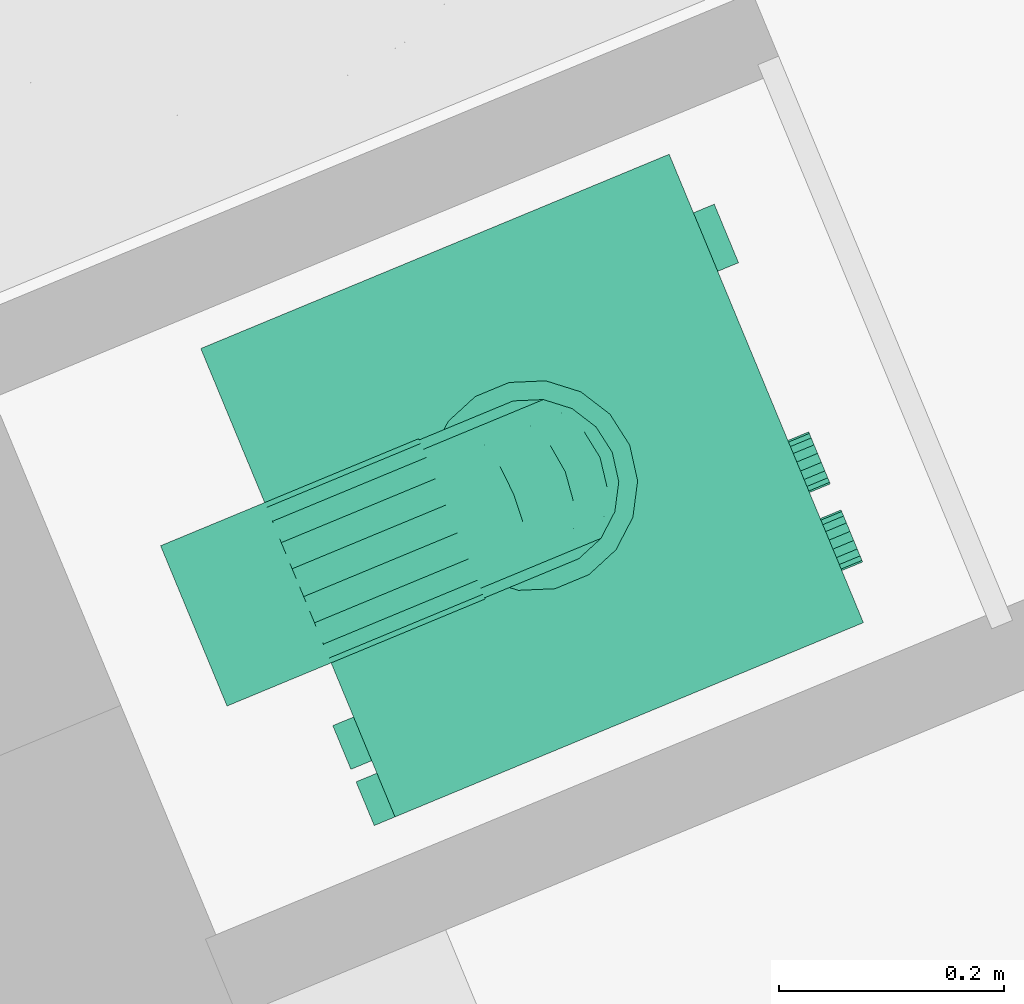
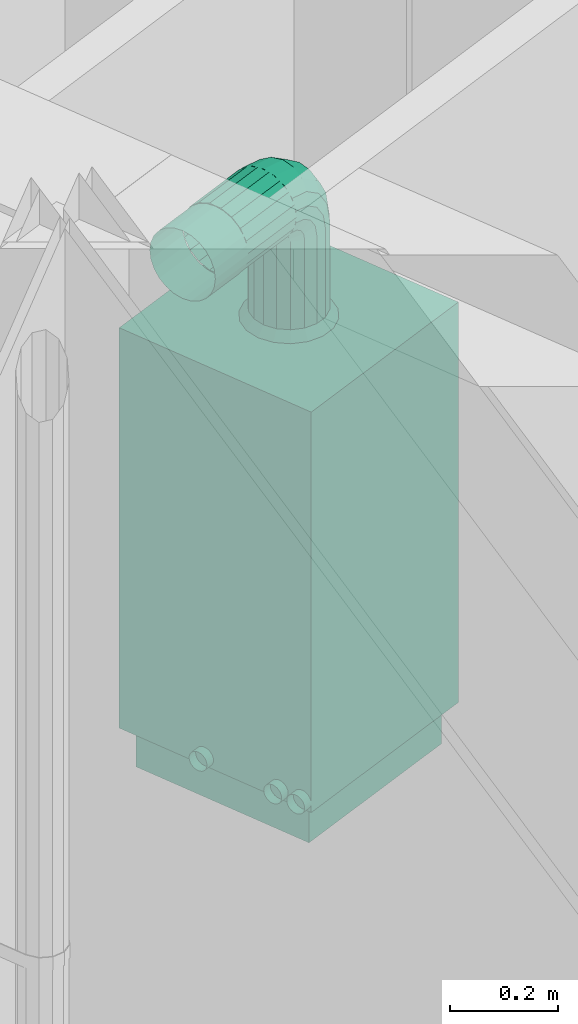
# One storey, part 84 of 119: 1 energy conversion device.
"""IFC2X3 building model written with IfcOpenShell, lengths in metres."""

from ifc_helpers import new_model, entity, si_unit, converted_unit, derived_unit, money_unit, direction, frame, origin_with_axes, place, context, subcontext, project, spatial, open_shell, faceted_brep, surface_model, source, transform, mapped, type_object, element, save


model = new_model("IFC2X3")

# Units and contexts
model_context = context("Model", 3, precision=1e-05, world=origin_with_axes(), true_north=direction((0.0, 1.0)))
body_context = subcontext(model_context, "Body", "Model", "MODEL_VIEW")
ifc_project = project(units=[si_unit("LENGTHUNIT", "METRE"), si_unit("AREAUNIT", "SQUARE_METRE"), si_unit("VOLUMEUNIT", "CUBIC_METRE"), converted_unit("PLANEANGLEUNIT", "DEGREE", entity("IfcPlaneAngleMeasure", 0.0174532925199), si_unit("PLANEANGLEUNIT", "RADIAN"), dimensions=[0, 0, 0, 0, 0, 0, 0]), si_unit("SOLIDANGLEUNIT", "STERADIAN"), money_unit("EUR"), converted_unit("TIMEUNIT", "Year", entity("IfcTimeMeasure", 31556926.0), si_unit("TIMEUNIT", "SECOND"), dimensions=[0, 0, 1, 0, 0, 0, 0]), si_unit("MASSUNIT", "GRAM", prefix="KILO"), si_unit("THERMODYNAMICTEMPERATUREUNIT", "DEGREE_CELSIUS"), si_unit("LUMINOUSINTENSITYUNIT", "LUMEN"), si_unit("ENERGYUNIT", "JOULE", prefix="MEGA"), derived_unit("THERMALCONDUCTANCEUNIT", [(si_unit("POWERUNIT", "WATT"), 1), (si_unit("LENGTHUNIT", "METRE"), -1), (si_unit("THERMODYNAMICTEMPERATUREUNIT", "KELVIN"), -1)]), derived_unit("SPECIFICHEATCAPACITYUNIT", [(si_unit("ENERGYUNIT", "JOULE"), 1), (si_unit("MASSUNIT", "GRAM", prefix="KILO"), -1), (si_unit("THERMODYNAMICTEMPERATUREUNIT", "KELVIN"), -1)]), derived_unit("MASSDENSITYUNIT", [(si_unit("MASSUNIT", "GRAM", prefix="KILO"), 1), (si_unit("VOLUMEUNIT", "CUBIC_METRE"), -1)])], contexts=[model_context])

# Site, building, storey
site_placement = place(None, origin_with_axes())
site = spatial("IfcSite", under=ifc_project, at=site_placement, Name="Site", CompositionType="ELEMENT")
building_placement = place(site_placement, origin_with_axes())
building = spatial("IfcBuilding", under=site, at=building_placement, Name="Bâtiment", CompositionType="ELEMENT")
storey_placement = place(building_placement, origin_with_axes())
storey = spatial("IfcBuildingStorey", under=building, at=storey_placement, Name="Rez-de-chaussée", CompositionType="ELEMENT", Elevation=0.0)

# Energy conversion device
boiler_type = type_object("IfcBoilerType", Name="Chaudière à gaz 23", PredefinedType="WATER")
shared_shape = source(origin_with_axes(), body_context, "Body", "SurfaceModel", [
    surface_model("IfcShellBasedSurfaceModel", [(-0.2, 0.45, 0.090909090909), (-0.2, 0.47, 0.090909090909), (-0.194564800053, 0.47, 0.0916246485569), (-0.194564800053, 0.45, 0.0916246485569), (-0.205435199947, 0.45, 0.0916246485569), (-0.205435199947, 0.47, 0.0916246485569), (-0.1895, 0.47, 0.0937225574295), (-0.1895, 0.45, 0.0937225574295), (-0.2105, 0.45, 0.0937225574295), (-0.2105, 0.47, 0.0937225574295), (-0.185150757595, 0.47, 0.0970598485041), (-0.185150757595, 0.45, 0.0970598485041), (-0.214849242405, 0.45, 0.0970598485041), (-0.214849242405, 0.47, 0.0970598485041), (-0.181813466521, 0.47, 0.101409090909), (-0.181813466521, 0.45, 0.101409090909), (-0.218186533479, 0.45, 0.101409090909), (-0.218186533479, 0.47, 0.101409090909), (-0.179715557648, 0.47, 0.106473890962), (-0.179715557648, 0.45, 0.106473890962), (-0.220284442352, 0.45, 0.106473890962), (-0.220284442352, 0.47, 0.106473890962), (-0.179, 0.47, 0.111909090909), (-0.179, 0.45, 0.111909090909), (-0.221, 0.45, 0.111909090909), (-0.221, 0.47, 0.111909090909), (-0.179715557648, 0.47, 0.117344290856), (-0.179715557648, 0.45, 0.117344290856), (-0.220284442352, 0.45, 0.117344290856), (-0.220284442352, 0.47, 0.117344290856), (-0.181813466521, 0.47, 0.122409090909), (-0.181813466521, 0.45, 0.122409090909), (-0.218186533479, 0.45, 0.122409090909), (-0.218186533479, 0.47, 0.122409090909), (-0.185150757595, 0.47, 0.126758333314), (-0.185150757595, 0.45, 0.126758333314), (-0.214849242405, 0.45, 0.126758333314), (-0.214849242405, 0.47, 0.126758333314), (-0.1895, 0.47, 0.130095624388), (-0.1895, 0.45, 0.130095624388), (-0.2105, 0.45, 0.130095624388), (-0.2105, 0.47, 0.130095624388), (-0.194564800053, 0.47, 0.132193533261), (-0.194564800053, 0.45, 0.132193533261), (-0.205435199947, 0.45, 0.132193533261), (-0.205435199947, 0.47, 0.132193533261), (-0.2, 0.47, 0.132909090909), (-0.2, 0.45, 0.132909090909)], [open_shell([[[0, 1, 2, 3]], [[4, 5, 1, 0]], [[3, 2, 6, 7]], [[8, 9, 5, 4]], [[7, 6, 10, 11]], [[12, 13, 9, 8]], [[11, 10, 14, 15]], [[16, 17, 13, 12]], [[15, 14, 18, 19]], [[20, 21, 17, 16]], [[19, 18, 22, 23]], [[24, 25, 21, 20]], [[23, 22, 26, 27]], [[28, 29, 25, 24]], [[27, 26, 30, 31]], [[32, 33, 29, 28]], [[31, 30, 34, 35]], [[36, 37, 33, 32]], [[35, 34, 38, 39]], [[40, 41, 37, 36]], [[39, 38, 42, 43]], [[44, 45, 41, 40]], [[43, 42, 46, 47]], [[47, 46, 45, 44]]])]),
    surface_model("IfcShellBasedSurfaceModel", [(-0.375, 0.45, 0.090909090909), (-0.375, 0.47, 0.090909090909), (-0.369564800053, 0.47, 0.0916246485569), (-0.369564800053, 0.45, 0.0916246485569), (-0.380435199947, 0.45, 0.0916246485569), (-0.380435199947, 0.47, 0.0916246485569), (-0.3645, 0.47, 0.0937225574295), (-0.3645, 0.45, 0.0937225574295), (-0.3855, 0.45, 0.0937225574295), (-0.3855, 0.47, 0.0937225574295), (-0.360150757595, 0.47, 0.0970598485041), (-0.360150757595, 0.45, 0.0970598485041), (-0.389849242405, 0.45, 0.0970598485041), (-0.389849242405, 0.47, 0.0970598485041), (-0.356813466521, 0.47, 0.101409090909), (-0.356813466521, 0.45, 0.101409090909), (-0.393186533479, 0.45, 0.101409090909), (-0.393186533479, 0.47, 0.101409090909), (-0.354715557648, 0.47, 0.106473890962), (-0.354715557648, 0.45, 0.106473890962), (-0.395284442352, 0.45, 0.106473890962), (-0.395284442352, 0.47, 0.106473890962), (-0.354, 0.47, 0.111909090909), (-0.354, 0.45, 0.111909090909), (-0.396, 0.45, 0.111909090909), (-0.396, 0.47, 0.111909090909), (-0.354715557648, 0.47, 0.117344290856), (-0.354715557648, 0.45, 0.117344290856), (-0.395284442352, 0.45, 0.117344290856), (-0.395284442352, 0.47, 0.117344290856), (-0.356813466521, 0.47, 0.122409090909), (-0.356813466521, 0.45, 0.122409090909), (-0.393186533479, 0.45, 0.122409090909), (-0.393186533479, 0.47, 0.122409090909), (-0.360150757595, 0.47, 0.126758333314), (-0.360150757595, 0.45, 0.126758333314), (-0.389849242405, 0.45, 0.126758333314), (-0.389849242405, 0.47, 0.126758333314), (-0.3645, 0.47, 0.130095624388), (-0.3645, 0.45, 0.130095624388), (-0.3855, 0.45, 0.130095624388), (-0.3855, 0.47, 0.130095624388), (-0.369564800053, 0.47, 0.132193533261), (-0.369564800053, 0.45, 0.132193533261), (-0.380435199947, 0.45, 0.132193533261), (-0.380435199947, 0.47, 0.132193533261), (-0.375, 0.47, 0.132909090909), (-0.375, 0.45, 0.132909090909)], [open_shell([[[0, 1, 2, 3]], [[4, 5, 1, 0]], [[3, 2, 6, 7]], [[8, 9, 5, 4]], [[7, 6, 10, 11]], [[12, 13, 9, 8]], [[11, 10, 14, 15]], [[16, 17, 13, 12]], [[15, 14, 18, 19]], [[20, 21, 17, 16]], [[19, 18, 22, 23]], [[24, 25, 21, 20]], [[23, 22, 26, 27]], [[28, 29, 25, 24]], [[27, 26, 30, 31]], [[32, 33, 29, 28]], [[31, 30, 34, 35]], [[36, 37, 33, 32]], [[35, 34, 38, 39]], [[40, 41, 37, 36]], [[39, 38, 42, 43]], [[44, 45, 41, 40]], [[43, 42, 46, 47]], [[47, 46, 45, 44]]])]),
    surface_model("IfcShellBasedSurfaceModel", [(-0.429, 0.45, 0.090909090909), (-0.429, 0.47, 0.090909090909), (-0.423564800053, 0.47, 0.0916246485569), (-0.423564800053, 0.45, 0.0916246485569), (-0.434435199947, 0.45, 0.0916246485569), (-0.434435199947, 0.47, 0.0916246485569), (-0.4185, 0.47, 0.0937225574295), (-0.4185, 0.45, 0.0937225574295), (-0.4395, 0.45, 0.0937225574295), (-0.4395, 0.47, 0.0937225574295), (-0.414150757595, 0.47, 0.0970598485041), (-0.414150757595, 0.45, 0.0970598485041), (-0.443849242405, 0.45, 0.0970598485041), (-0.443849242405, 0.47, 0.0970598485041), (-0.410813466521, 0.47, 0.101409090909), (-0.410813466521, 0.45, 0.101409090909), (-0.447186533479, 0.45, 0.101409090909), (-0.447186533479, 0.47, 0.101409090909), (-0.408715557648, 0.47, 0.106473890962), (-0.408715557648, 0.45, 0.106473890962), (-0.449284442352, 0.45, 0.106473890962), (-0.449284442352, 0.47, 0.106473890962), (-0.408, 0.47, 0.111909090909), (-0.408, 0.45, 0.111909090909), (-0.45, 0.45, 0.111909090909), (-0.45, 0.47, 0.111909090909), (-0.408715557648, 0.47, 0.117344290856), (-0.408715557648, 0.45, 0.117344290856), (-0.449284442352, 0.45, 0.117344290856), (-0.449284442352, 0.47, 0.117344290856), (-0.410813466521, 0.47, 0.122409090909), (-0.410813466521, 0.45, 0.122409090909), (-0.447186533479, 0.45, 0.122409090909), (-0.447186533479, 0.47, 0.122409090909), (-0.414150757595, 0.47, 0.126758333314), (-0.414150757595, 0.45, 0.126758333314), (-0.443849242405, 0.45, 0.126758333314), (-0.443849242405, 0.47, 0.126758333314), (-0.4185, 0.47, 0.130095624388), (-0.4185, 0.45, 0.130095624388), (-0.4395, 0.45, 0.130095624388), (-0.4395, 0.47, 0.130095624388), (-0.423564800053, 0.47, 0.132193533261), (-0.423564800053, 0.45, 0.132193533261), (-0.434435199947, 0.45, 0.132193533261), (-0.434435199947, 0.47, 0.132193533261), (-0.429, 0.47, 0.132909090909), (-0.429, 0.45, 0.132909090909)], [open_shell([[[0, 1, 2, 3]], [[4, 5, 1, 0]], [[3, 2, 6, 7]], [[8, 9, 5, 4]], [[7, 6, 10, 11]], [[12, 13, 9, 8]], [[11, 10, 14, 15]], [[16, 17, 13, 12]], [[15, 14, 18, 19]], [[20, 21, 17, 16]], [[19, 18, 22, 23]], [[24, 25, 21, 20]], [[23, 22, 26, 27]], [[28, 29, 25, 24]], [[27, 26, 30, 31]], [[32, 33, 29, 28]], [[31, 30, 34, 35]], [[36, 37, 33, 32]], [[35, 34, 38, 39]], [[40, 41, 37, 36]], [[39, 38, 42, 43]], [[44, 45, 41, 40]], [[43, 42, 46, 47]], [[47, 46, 45, 44]]])]),
    surface_model("IfcShellBasedSurfaceModel", [(-0.225, 0.45, 1.218), (-0.225, 0.55, 1.218), (-0.205070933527, 0.55, 1.22062371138), (-0.205070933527, 0.45, 1.22062371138), (-0.244929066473, 0.45, 1.22062371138), (-0.244929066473, 0.55, 1.22062371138), (-0.1865, 0.55, 1.22831604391), (-0.1865, 0.45, 1.22831604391), (-0.2635, 0.45, 1.22831604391), (-0.2635, 0.55, 1.22831604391), (-0.170552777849, 0.55, 1.24055277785), (-0.170552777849, 0.45, 1.24055277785), (-0.279447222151, 0.45, 1.24055277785), (-0.279447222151, 0.55, 1.24055277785), (-0.158316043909, 0.55, 1.2565), (-0.158316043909, 0.45, 1.2565), (-0.291683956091, 0.45, 1.2565), (-0.291683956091, 0.55, 1.2565), (-0.150623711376, 0.55, 1.27507093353), (-0.150623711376, 0.45, 1.27507093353), (-0.299376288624, 0.45, 1.27507093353), (-0.299376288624, 0.55, 1.27507093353), (-0.148, 0.55, 1.295), (-0.148, 0.45, 1.295), (-0.302, 0.45, 1.295), (-0.302, 0.55, 1.295), (-0.150623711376, 0.55, 1.31492906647), (-0.150623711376, 0.45, 1.31492906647), (-0.299376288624, 0.45, 1.31492906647), (-0.299376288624, 0.55, 1.31492906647), (-0.158316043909, 0.55, 1.3335), (-0.158316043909, 0.45, 1.3335), (-0.291683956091, 0.45, 1.3335), (-0.291683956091, 0.55, 1.3335), (-0.170552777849, 0.55, 1.34944722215), (-0.170552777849, 0.45, 1.34944722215), (-0.279447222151, 0.45, 1.34944722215), (-0.279447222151, 0.55, 1.34944722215), (-0.1865, 0.55, 1.36168395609), (-0.1865, 0.45, 1.36168395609), (-0.2635, 0.45, 1.36168395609), (-0.2635, 0.55, 1.36168395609), (-0.205070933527, 0.55, 1.36937628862), (-0.205070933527, 0.45, 1.36937628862), (-0.244929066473, 0.45, 1.36937628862), (-0.244929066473, 0.55, 1.36937628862), (-0.225, 0.55, 1.372), (-0.225, 0.45, 1.372)], [open_shell([[[0, 1, 2, 3]], [[4, 5, 1, 0]], [[3, 2, 6, 7]], [[8, 9, 5, 4]], [[7, 6, 10, 11]], [[12, 13, 9, 8]], [[11, 10, 14, 15]], [[16, 17, 13, 12]], [[15, 14, 18, 19]], [[20, 21, 17, 16]], [[19, 18, 22, 23]], [[24, 25, 21, 20]], [[23, 22, 26, 27]], [[28, 29, 25, 24]], [[27, 26, 30, 31]], [[32, 33, 29, 28]], [[31, 30, 34, 35]], [[36, 37, 33, 32]], [[35, 34, 38, 39]], [[40, 41, 37, 36]], [[39, 38, 42, 43]], [[44, 45, 41, 40]], [[43, 42, 46, 47]], [[47, 46, 45, 44]]])]),
    faceted_brep([(-0.4275, 0.0225, 0.0), (-0.4275, 0.4275, 0.0), (-0.0225, 0.4275, 0.0), (-0.0225, 0.0225, 0.0), (-0.4275, 0.0225, 0.0909090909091), (-0.4275, 0.4275, 0.0909090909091), (-0.0225, 0.4275, 0.0909090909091), (-0.0225, 0.0225, 0.0909090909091)], [[[0, 1, 2, 3]], [[0, 4, 5, 1]], [[1, 5, 6, 2]], [[2, 6, 7, 3]], [[3, 7, 4, 0]], [[7, 6, 5, 4]]]),
    faceted_brep([(0.0, 0.45, 0.0909090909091), (-0.45, 0.45, 0.0909090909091), (-0.45, 0.45, 1.0), (0.0, 0.45, 1.0), (0.0, 0.0, 0.0909090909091), (-0.45, 0.0, 0.0909090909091), (-0.45, 0.0, 0.818181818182), (-0.45, 0.0225, 0.818181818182), (-0.45, 0.0225, 1.0), (0.0, 0.0225, 1.0), (0.0, 0.0225, 0.818181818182), (0.0, 0.0, 0.818181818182)], [[[0, 1, 2, 3]], [[4, 5, 1, 0]], [[1, 5, 6, 7, 8, 2]], [[3, 2, 8, 9]], [[0, 3, 9, 10, 11, 4]], [[11, 6, 5, 4]], [[10, 7, 6, 11]], [[9, 8, 7, 10]]]),
    faceted_brep([(-0.45, 0.0, 0.818181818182), (-0.45, 0.0225, 0.818181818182), (0.0, 0.0225, 0.818181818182), (0.0, 0.0, 0.818181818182), (-0.45, 0.0, 1.0), (-0.45, 0.0225, 1.0), (0.0, 0.0225, 1.0), (0.0, 0.0, 1.0)], [[[0, 1, 2, 3]], [[0, 4, 5, 1]], [[1, 5, 6, 2]], [[2, 6, 7, 3]], [[3, 7, 4, 0]], [[7, 6, 5, 4]]]),
    faceted_brep([(-0.32349231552, 0.0, 0.900540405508), (-0.325, 0.0, 0.909090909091), (-0.32349231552, 0.0, 0.917641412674), (-0.319151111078, 0.0, 0.925160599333), (-0.3125, 0.0, 0.930741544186), (-0.304341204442, 0.0, 0.933711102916), (-0.295658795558, 0.0, 0.933711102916), (-0.2875, 0.0, 0.930741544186), (-0.280848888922, 0.0, 0.925160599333), (-0.27650768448, 0.0, 0.917641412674), (-0.275, 0.0, 0.909090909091), (-0.27650768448, 0.0, 0.900540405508), (-0.280848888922, 0.0, 0.893021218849), (-0.2875, 0.0, 0.887440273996), (-0.295658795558, 0.0, 0.884470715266), (-0.304341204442, 0.0, 0.884470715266), (-0.3125, 0.0, 0.887440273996), (-0.319151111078, 0.0, 0.893021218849), (-0.32349231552, -0.02, 0.900540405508), (-0.325, -0.02, 0.909090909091), (-0.32349231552, -0.02, 0.917641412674), (-0.319151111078, -0.02, 0.925160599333), (-0.3125, -0.02, 0.930741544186), (-0.304341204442, -0.02, 0.933711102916), (-0.295658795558, -0.02, 0.933711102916), (-0.2875, -0.02, 0.930741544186), (-0.280848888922, -0.02, 0.925160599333), (-0.27650768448, -0.02, 0.917641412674), (-0.275, -0.02, 0.909090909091), (-0.27650768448, -0.02, 0.900540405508), (-0.280848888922, -0.02, 0.893021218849), (-0.2875, -0.02, 0.887440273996), (-0.295658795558, -0.02, 0.884470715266), (-0.304341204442, -0.02, 0.884470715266), (-0.3125, -0.02, 0.887440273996), (-0.319151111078, -0.02, 0.893021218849)], [[[0, 1, 2, 3, 4, 5, 6, 7, 8, 9, 10, 11, 12, 13, 14, 15, 16, 17]], [[0, 18, 19, 1]], [[1, 19, 20, 2]], [[2, 20, 21, 3]], [[3, 21, 22, 4]], [[4, 22, 23, 5]], [[5, 23, 24, 6]], [[6, 24, 25, 7]], [[7, 25, 26, 8]], [[8, 26, 27, 9]], [[9, 27, 28, 10]], [[10, 28, 29, 11]], [[11, 29, 30, 12]], [[12, 30, 31, 13]], [[13, 31, 32, 14]], [[14, 32, 33, 15]], [[15, 33, 34, 16]], [[16, 34, 35, 17]], [[17, 35, 18, 0]], [[18, 35, 34, 33, 32, 31, 30, 29, 28, 27, 26, 25, 24, 23, 22, 21, 20, 19]]]),
    faceted_brep([(-0.39849231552, 0.0, 0.900540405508), (-0.4, 0.0, 0.909090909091), (-0.39849231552, 0.0, 0.917641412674), (-0.394151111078, 0.0, 0.925160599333), (-0.3875, 0.0, 0.930741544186), (-0.379341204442, 0.0, 0.933711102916), (-0.370658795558, 0.0, 0.933711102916), (-0.3625, 0.0, 0.930741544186), (-0.355848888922, 0.0, 0.925160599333), (-0.35150768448, 0.0, 0.917641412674), (-0.35, 0.0, 0.909090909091), (-0.35150768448, 0.0, 0.900540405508), (-0.355848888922, 0.0, 0.893021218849), (-0.3625, 0.0, 0.887440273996), (-0.370658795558, 0.0, 0.884470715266), (-0.379341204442, 0.0, 0.884470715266), (-0.3875, 0.0, 0.887440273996), (-0.394151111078, 0.0, 0.893021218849), (-0.39849231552, -0.02, 0.900540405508), (-0.4, -0.02, 0.909090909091), (-0.39849231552, -0.02, 0.917641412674), (-0.394151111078, -0.02, 0.925160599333), (-0.3875, -0.02, 0.930741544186), (-0.379341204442, -0.02, 0.933711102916), (-0.370658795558, -0.02, 0.933711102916), (-0.3625, -0.02, 0.930741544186), (-0.355848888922, -0.02, 0.925160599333), (-0.35150768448, -0.02, 0.917641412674), (-0.35, -0.02, 0.909090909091), (-0.35150768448, -0.02, 0.900540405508), (-0.355848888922, -0.02, 0.893021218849), (-0.3625, -0.02, 0.887440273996), (-0.370658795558, -0.02, 0.884470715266), (-0.379341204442, -0.02, 0.884470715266), (-0.3875, -0.02, 0.887440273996), (-0.394151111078, -0.02, 0.893021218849)], [[[0, 1, 2, 3, 4, 5, 6, 7, 8, 9, 10, 11, 12, 13, 14, 15, 16, 17]], [[0, 18, 19, 1]], [[1, 19, 20, 2]], [[2, 20, 21, 3]], [[3, 21, 22, 4]], [[4, 22, 23, 5]], [[5, 23, 24, 6]], [[6, 24, 25, 7]], [[7, 25, 26, 8]], [[8, 26, 27, 9]], [[9, 27, 28, 10]], [[10, 28, 29, 11]], [[11, 29, 30, 12]], [[12, 30, 31, 13]], [[13, 31, 32, 14]], [[14, 32, 33, 15]], [[15, 33, 34, 16]], [[16, 34, 35, 17]], [[17, 35, 18, 0]], [[18, 35, 34, 33, 32, 31, 30, 29, 28, 27, 26, 25, 24, 23, 22, 21, 20, 19]]]),
    faceted_brep([(-0.1125, 0.0, 0.878787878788), (-0.1125, 0.0, 0.939393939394), (-0.05625, 0.0, 0.939393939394), (-0.05625, 0.0, 0.878787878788), (-0.1125, -0.02, 0.878787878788), (-0.1125, -0.02, 0.939393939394), (-0.05625, -0.02, 0.939393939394), (-0.05625, -0.02, 0.878787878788)], [[[0, 1, 2, 3]], [[0, 4, 5, 1]], [[1, 5, 6, 2]], [[2, 6, 7, 3]], [[3, 7, 4, 0]], [[7, 6, 5, 4]]]),
    surface_model("IfcShellBasedSurfaceModel", [(-0.198664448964, 0.297356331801, 1.22), (-0.198664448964, 0.297356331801, 1.02), (-0.225, 0.302, 1.02), (-0.225, 0.302, 1.22), (-0.175505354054, 0.28398542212, 1.22), (-0.175505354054, 0.28398542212, 1.02), (-0.192935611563, 0.313096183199, 1.0), (-0.225, 0.31875, 1.0), (-0.251335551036, 0.297356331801, 1.02), (-0.251335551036, 0.297356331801, 1.22), (-0.158316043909, 0.2635, 1.22), (-0.158316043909, 0.2635, 1.02), (-0.164738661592, 0.296816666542, 1.0), (-0.257064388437, 0.313096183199, 1.0), (-0.274494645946, 0.28398542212, 1.02), (-0.274494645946, 0.28398542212, 1.22), (-0.149169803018, 0.23837090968, 1.22), (-0.149169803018, 0.23837090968, 1.02), (-0.143810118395, 0.271875, 1.0), (-0.285261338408, 0.296816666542, 1.0), (-0.291683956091, 0.2635, 1.02), (-0.291683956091, 0.2635, 1.22), (-0.149169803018, 0.21162909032, 1.22), (-0.149169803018, 0.21162909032, 1.02), (-0.132674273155, 0.241279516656, 1.0), (-0.306189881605, 0.271875, 1.0), (-0.300830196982, 0.23837090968, 1.02), (-0.300830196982, 0.23837090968, 1.22), (-0.158316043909, 0.1865, 1.22), (-0.158316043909, 0.1865, 1.02), (-0.132674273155, 0.208720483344, 1.0), (-0.317325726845, 0.241279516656, 1.0), (-0.300830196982, 0.21162909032, 1.02), (-0.300830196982, 0.21162909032, 1.22), (-0.175505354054, 0.16601457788, 1.22), (-0.175505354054, 0.16601457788, 1.02), (-0.143810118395, 0.178125, 1.0), (-0.317325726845, 0.208720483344, 1.0), (-0.291683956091, 0.1865, 1.02), (-0.291683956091, 0.1865, 1.22), (-0.198664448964, 0.152643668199, 1.22), (-0.198664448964, 0.152643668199, 1.02), (-0.164738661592, 0.153183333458, 1.0), (-0.306189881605, 0.178125, 1.0), (-0.274494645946, 0.16601457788, 1.02), (-0.274494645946, 0.16601457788, 1.22), (-0.225, 0.148, 1.22), (-0.225, 0.148, 1.02), (-0.192935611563, 0.136903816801, 1.0), (-0.285261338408, 0.153183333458, 1.0), (-0.251335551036, 0.152643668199, 1.02), (-0.251335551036, 0.152643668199, 1.22), (-0.225, 0.13125, 1.0), (-0.257064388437, 0.136903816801, 1.0)], [open_shell([[[0, 1, 2, 3]], [[4, 5, 1, 0]], [[1, 6, 7, 2]], [[3, 2, 8, 9]], [[10, 11, 5, 4]], [[5, 12, 6, 1]], [[2, 7, 13, 8]], [[9, 8, 14, 15]], [[16, 17, 11, 10]], [[11, 18, 12, 5]], [[8, 13, 19, 14]], [[15, 14, 20, 21]], [[22, 23, 17, 16]], [[17, 24, 18, 11]], [[14, 19, 25, 20]], [[21, 20, 26, 27]], [[28, 29, 23, 22]], [[23, 30, 24, 17]], [[20, 25, 31, 26]], [[27, 26, 32, 33]], [[34, 35, 29, 28]], [[29, 36, 30, 23]], [[26, 31, 37, 32]], [[33, 32, 38, 39]], [[40, 41, 35, 34]], [[35, 42, 36, 29]], [[32, 37, 43, 38]], [[39, 38, 44, 45]], [[46, 47, 41, 40]], [[41, 48, 42, 35]], [[38, 43, 49, 44]], [[45, 44, 50, 51]], [[51, 50, 47, 46]], [[47, 52, 48, 41]], [[44, 49, 53, 50]], [[50, 53, 52, 47]]])]),
    faceted_brep([(-0.300830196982, 0.218508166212, 1.2545834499), (-0.300830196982, 0.21162909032, 1.22), (-0.291683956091, 0.1865, 1.22), (-0.291683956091, 0.195291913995, 1.26419993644), (-0.300830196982, 0.243214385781, 1.24434979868), (-0.300830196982, 0.23837090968, 1.22), (-0.291683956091, 0.2635, 1.22), (-0.274494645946, 0.28398542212, 1.22), (-0.251335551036, 0.297356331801, 1.22), (-0.225, 0.302, 1.22), (-0.198664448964, 0.297356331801, 1.22), (-0.175505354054, 0.28398542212, 1.22), (-0.158316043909, 0.2635, 1.22), (-0.149169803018, 0.23837090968, 1.22), (-0.149169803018, 0.21162909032, 1.22), (-0.158316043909, 0.1865, 1.22), (-0.175505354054, 0.16601457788, 1.22), (-0.198664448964, 0.152643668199, 1.22), (-0.225, 0.148, 1.22), (-0.251335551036, 0.152643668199, 1.22), (-0.274494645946, 0.16601457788, 1.22), (-0.274494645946, 0.176365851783, 1.27203936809), (-0.300830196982, 0.238098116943, 1.28390188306), (-0.291683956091, 0.220329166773, 1.30167083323), (-0.300830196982, 0.257007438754, 1.26499256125), (-0.291683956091, 0.266430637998, 1.23473331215), (-0.274494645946, 0.28535670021, 1.2268938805), (-0.251335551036, 0.297709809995, 1.22177705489), (-0.198664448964, 0.297709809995, 1.22177705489), (-0.175505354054, 0.28535670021, 1.2268938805), (-0.158316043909, 0.266430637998, 1.23473331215), (-0.149169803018, 0.243214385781, 1.24434979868), (-0.149169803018, 0.218508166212, 1.2545834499), (-0.158316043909, 0.195291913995, 1.26419993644), (-0.175505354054, 0.176365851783, 1.27203936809), (-0.198664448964, 0.164012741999, 1.2771561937), (-0.225, 0.159722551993, 1.27893324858), (-0.251335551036, 0.164012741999, 1.2771561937), (-0.274494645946, 0.205843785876, 1.31615621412), (-0.291683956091, 0.257800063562, 1.32670808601), (-0.300830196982, 0.267416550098, 1.30349183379), (-0.300830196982, 0.277650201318, 1.27878561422), (-0.291683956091, 0.274776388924, 1.24722361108), (-0.274494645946, 0.289261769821, 1.23273823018), (-0.251335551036, 0.298716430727, 1.22328356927), (-0.198664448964, 0.298716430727, 1.22328356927), (-0.175505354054, 0.289261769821, 1.23273823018), (-0.158316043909, 0.274776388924, 1.24722361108), (-0.149169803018, 0.257007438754, 1.26499256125), (-0.149169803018, 0.238098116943, 1.28390188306), (-0.158316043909, 0.220329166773, 1.30167083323), (-0.175505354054, 0.205843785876, 1.31615621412), (-0.198664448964, 0.196389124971, 1.32561087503), (-0.225, 0.193105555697, 1.3288944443), (-0.251335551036, 0.196389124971, 1.32561087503), (-0.274494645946, 0.249960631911, 1.34563414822), (-0.291683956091, 0.302, 1.3355), (-0.300830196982, 0.302, 1.31037090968), (-0.300830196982, 0.302, 1.28362909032), (-0.291683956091, 0.287266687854, 1.255569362), (-0.274494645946, 0.295106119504, 1.23664329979), (-0.251335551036, 0.300222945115, 1.22429019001), (-0.198664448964, 0.300222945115, 1.22429019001), (-0.175505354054, 0.295106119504, 1.23664329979), (-0.158316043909, 0.287266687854, 1.255569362), (-0.149169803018, 0.277650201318, 1.27878561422), (-0.149169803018, 0.267416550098, 1.30349183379), (-0.158316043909, 0.257800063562, 1.32670808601), (-0.175505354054, 0.249960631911, 1.34563414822), (-0.198664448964, 0.244843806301, 1.357987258), (-0.225, 0.243066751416, 1.36227744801), (-0.251335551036, 0.244843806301, 1.357987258), (-0.274494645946, 0.302, 1.35598542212), (-0.291683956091, 0.302, 1.2585), (-0.251335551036, 0.302, 1.3693563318), (-0.225, 0.302, 1.374), (-0.198664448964, 0.302, 1.3693563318), (-0.175505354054, 0.302, 1.35598542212), (-0.158316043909, 0.302, 1.3355), (-0.149169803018, 0.302, 1.31037090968), (-0.149169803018, 0.302, 1.28362909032), (-0.158316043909, 0.302, 1.2585), (-0.175505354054, 0.302, 1.23801457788), (-0.198664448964, 0.302, 1.2246436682), (-0.251335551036, 0.302, 1.2246436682), (-0.274494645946, 0.302, 1.23801457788)], [[[0, 1, 2, 3]], [[1, 0, 4, 5]], [[2, 1, 5, 6, 7, 8, 9, 10, 11, 12, 13, 14, 15, 16, 17, 18, 19, 20]], [[3, 2, 20, 21]], [[22, 0, 3, 23]], [[0, 22, 24, 4]], [[6, 5, 4, 25]], [[26, 7, 6, 25]], [[7, 26, 27, 8]], [[8, 27, 9]], [[28, 10, 9]], [[10, 28, 29, 11]], [[30, 12, 11, 29]], [[12, 30, 31, 13]], [[32, 14, 13, 31]], [[15, 14, 32, 33]], [[34, 16, 15, 33]], [[17, 16, 34, 35]], [[36, 18, 17, 35]], [[19, 18, 36, 37]], [[21, 20, 19, 37]], [[23, 3, 21, 38]], [[22, 23, 39, 40]], [[24, 22, 40, 41]], [[4, 24, 42, 25]], [[43, 26, 25, 42]], [[26, 43, 44, 27]], [[27, 44, 9]], [[45, 28, 9]], [[28, 45, 46, 29]], [[29, 46, 47, 30]], [[31, 30, 47, 48]], [[49, 32, 31, 48]], [[32, 49, 50, 33]], [[51, 34, 33, 50]], [[35, 34, 51, 52]], [[53, 36, 35, 52]], [[54, 37, 36, 53]], [[38, 21, 37, 54]], [[39, 23, 38, 55]], [[40, 39, 56, 57]], [[41, 40, 57, 58]], [[59, 42, 24, 41]], [[42, 59, 60, 43]], [[43, 60, 61, 44]], [[44, 61, 9]], [[62, 45, 9]], [[45, 62, 63, 46]], [[46, 63, 64, 47]], [[47, 64, 65, 48]], [[66, 49, 48, 65]], [[50, 49, 66, 67]], [[68, 51, 50, 67]], [[52, 51, 68, 69]], [[53, 52, 69, 70]], [[71, 54, 53, 70]], [[55, 38, 54, 71]], [[56, 39, 55, 72]], [[73, 58, 57, 56, 72, 74, 75, 76, 77, 78, 79, 80, 81, 82, 83, 9, 84, 85]], [[59, 41, 58, 73]], [[59, 73, 85, 60]], [[60, 85, 84, 61]], [[61, 84, 9]], [[62, 9, 83]], [[63, 62, 83, 82]], [[63, 82, 81, 64]], [[65, 64, 81, 80]], [[66, 65, 80, 79]], [[67, 66, 79, 78]], [[77, 68, 67, 78]], [[69, 68, 77, 76]], [[75, 70, 69, 76]], [[71, 70, 75, 74]], [[72, 55, 71, 74]]]),
    surface_model("IfcShellBasedSurfaceModel", [(-0.152643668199, 0.45, 1.32333555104), (-0.152643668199, 0.302, 1.32333555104), (-0.148, 0.302, 1.297), (-0.148, 0.45, 1.297), (-0.16601457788, 0.45, 1.34649464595), (-0.16601457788, 0.302, 1.34649464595), (-0.152643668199, 0.302, 1.27066444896), (-0.152643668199, 0.45, 1.27066444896), (-0.1865, 0.45, 1.36368395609), (-0.1865, 0.302, 1.36368395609), (-0.16601457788, 0.302, 1.24750535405), (-0.16601457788, 0.45, 1.24750535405), (-0.21162909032, 0.45, 1.37283019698), (-0.21162909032, 0.302, 1.37283019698), (-0.1865, 0.302, 1.23031604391), (-0.1865, 0.45, 1.23031604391), (-0.23837090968, 0.45, 1.37283019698), (-0.23837090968, 0.302, 1.37283019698), (-0.21162909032, 0.302, 1.22116980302), (-0.21162909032, 0.45, 1.22116980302), (-0.2635, 0.45, 1.36368395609), (-0.2635, 0.302, 1.36368395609), (-0.23837090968, 0.302, 1.22116980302), (-0.23837090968, 0.45, 1.22116980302), (-0.28398542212, 0.45, 1.34649464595), (-0.28398542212, 0.302, 1.34649464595), (-0.2635, 0.302, 1.23031604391), (-0.2635, 0.45, 1.23031604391), (-0.297356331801, 0.45, 1.32333555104), (-0.297356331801, 0.302, 1.32333555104), (-0.28398542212, 0.302, 1.24750535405), (-0.28398542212, 0.45, 1.24750535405), (-0.302, 0.45, 1.297), (-0.302, 0.302, 1.297), (-0.297356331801, 0.302, 1.27066444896), (-0.297356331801, 0.45, 1.27066444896)], [open_shell([[[0, 1, 2, 3]], [[4, 5, 1, 0]], [[3, 2, 6, 7]], [[8, 9, 5, 4]], [[7, 6, 10, 11]], [[12, 13, 9, 8]], [[11, 10, 14, 15]], [[16, 17, 13, 12]], [[15, 14, 18, 19]], [[20, 21, 17, 16]], [[19, 18, 22, 23]], [[24, 25, 21, 20]], [[23, 22, 26, 27]], [[28, 29, 25, 24]], [[27, 26, 30, 31]], [[32, 33, 29, 28]], [[31, 30, 34, 35]], [[35, 34, 33, 32]]])]),
])
energy_conversion_device_placement = place(storey_placement, frame((-20.8183897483, -24.0717725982, 0.9), z_axis=(0.0, 0.0, 1.0), x_axis=(-0.383112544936, 0.92370167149, 0.0)))
element("IfcEnergyConversionDevice", 1, at=energy_conversion_device_placement, inside=storey, type_object=boiler_type, Name="MOB-002", context=body_context, shape_type="MappedRepresentation", body=[
    mapped(shared_shape, transform((0.0, 0.0, 0.0))),
])

save(model, "model.ifc")
